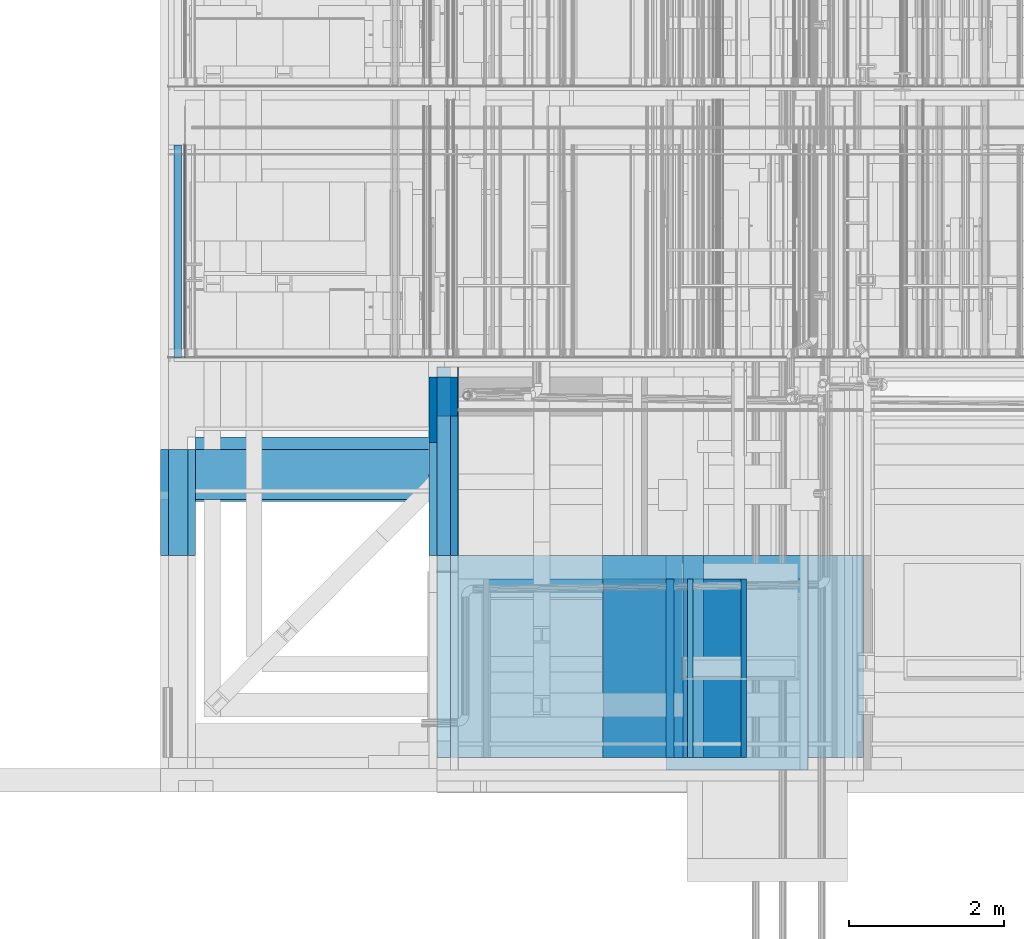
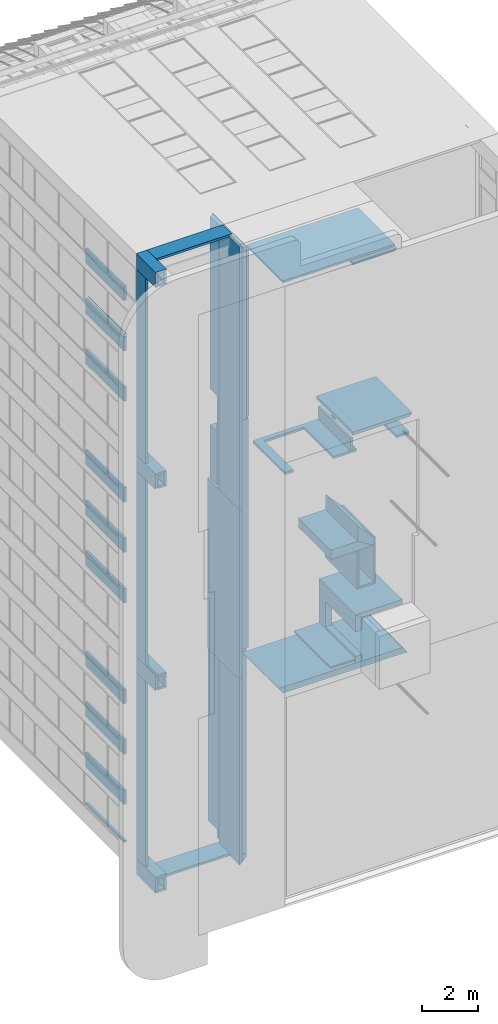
# One storey, part 9 of 583: 53 walls, 3 openings.
"""IFC2X3 building model written with IfcOpenShell, lengths in metres."""

import ifcopenshell
import ifcopenshell.guid

model = None  # the IFC model being written
_history = None  # IfcOwnerHistory: only IFC2X3 demands one
_inside = {}  # id of a spatial element -> (the spatial element, [elements in it])
_under = {}  # id of a project, library or spatial element -> (it, [spatial elements below it])
_declared = {}  # id of a project -> (the project, [libraries it declares])
_typed = {}  # id of a type object -> (the type object, [elements of that type])
_made_of = {}  # id of a material, layer set ... -> (it, [elements and type objects made of it])


def new_model(schema):
    """Start an empty IFC model of exactly this schema.

    Asked for "IFC4X3", IfcOpenShell would pick the latest addendum, in which some entities
    have other attributes; the version numbers below select the first issue.
    IFC2X3 requires an IfcOwnerHistory on every rooted entity: one is made here for all.
    """
    global model, _history
    if schema == "IFC4X3":
        model = ifcopenshell.file(schema_version=(4, 3, 0, 0))
    else:
        model = ifcopenshell.file(schema=schema)
    _inside.clear()
    _under.clear()
    _declared.clear()
    _typed.clear()
    _made_of.clear()
    _history = None
    if model.schema == "IFC2X3":
        org = make("IfcOrganization", Name="unknown")
        user = make(
            "IfcPersonAndOrganization",
            ThePerson=make("IfcPerson", FamilyName="unknown"),
            TheOrganization=org,
        )
        app = make(
            "IfcApplication",
            ApplicationDeveloper=org,
            Version="unknown",
            ApplicationFullName="unknown",
            ApplicationIdentifier="unknown",
        )
        _history = make(
            "IfcOwnerHistory",
            OwningUser=user,
            OwningApplication=app,
            ChangeAction="ADDED",
            CreationDate=0,
        )
    return model


def make(cls, **values):
    """One entity of the class cls with the attributes given. An attribute that is None is left unset."""
    return model.create_entity(
        cls, **{name: value for name, value in values.items() if value is not None}
    )


def entity(cls, *values):
    """Any entity or typed value of the class cls, its attributes in the order of the schema. None: left unset."""
    e = model.create_entity(cls)
    for i, value in enumerate(values):
        if value is not None:
            e[i] = value
    return e


def rooted(cls, **values):
    """An entity with a GlobalId (a new one), such as an element, a storey or a relation."""
    return make(cls, GlobalId=ifcopenshell.guid.new(), OwnerHistory=_history, **values)


def si_unit(unit_type, name, prefix=None):
    """IfcSIUnit, for example si_unit("LENGTHUNIT", "METRE", prefix="MILLI")."""
    return make("IfcSIUnit", UnitType=unit_type, Prefix=prefix, Name=name)


def converted_unit(unit_type, name, factor, base, dimensions=None, offset=None):
    """IfcConversionBasedUnit, such as the inch: factor (a typed value) times the base unit."""
    return make(
        "IfcConversionBasedUnit"
        if offset is None
        else "IfcConversionBasedUnitWithOffset",
        ConversionOffset=offset,
        Dimensions=None
        if dimensions is None
        else entity("IfcDimensionalExponents", *dimensions),
        UnitType=unit_type,
        Name=name,
        ConversionFactor=make(
            "IfcMeasureWithUnit", ValueComponent=factor, UnitComponent=base
        ),
    )


def derived_unit(unit_type, elements):
    """IfcDerivedUnit: a product of units, each with its exponent."""
    return make(
        "IfcDerivedUnit",
        Elements=[
            make("IfcDerivedUnitElement", Unit=unit, Exponent=power)
            for unit, power in elements
        ],
        UnitType=unit_type,
    )


def money_unit(currency):
    """IfcMonetaryUnit."""
    return make("IfcMonetaryUnit", Currency=currency)


def assignment(units):
    """IfcUnitAssignment: the units of a project."""
    return None if units is None else make("IfcUnitAssignment", Units=units)


def point(xyz):
    """IfcCartesianPoint."""
    return None if xyz is None else make("IfcCartesianPoint", Coordinates=xyz)


def direction(xyz):
    """IfcDirection."""
    return None if xyz is None else make("IfcDirection", DirectionRatios=xyz)


def frame(location, z_axis=None, x_axis=None):
    """IfcAxis2Placement3D, a coordinate frame: its origin and axes. An axis left out is left unset."""
    return make(
        "IfcAxis2Placement3D",
        Location=point(location),
        Axis=direction(z_axis),
        RefDirection=direction(x_axis),
    )


def frame_2d(location, x_axis=None):
    """IfcAxis2Placement2D, a coordinate frame in the plane: its origin and x axis."""
    return make(
        "IfcAxis2Placement2D", Location=point(location), RefDirection=direction(x_axis)
    )


def origin_with_axes():
    """The frame at (0, 0, 0) with the z axis (0, 0, 1) and the x axis (1, 0, 0) written out."""
    return frame((0.0, 0.0, 0.0), z_axis=(0.0, 0.0, 1.0), x_axis=(1.0, 0.0, 0.0))


def place(relative_to, where):
    """IfcLocalPlacement: puts the frame where relative to a parent placement (None: the world)."""
    return make(
        "IfcLocalPlacement", PlacementRelTo=relative_to, RelativePlacement=where
    )


def context(
    kind, dimensions, precision=None, world=None, true_north=None, identifier=None
):
    """IfcGeometricRepresentationContext, for example the 3D "Model" context."""
    return make(
        "IfcGeometricRepresentationContext",
        ContextIdentifier=identifier,
        ContextType=kind,
        CoordinateSpaceDimension=dimensions,
        Precision=precision,
        WorldCoordinateSystem=world,
        TrueNorth=true_north,
    )


def subcontext(parent, identifier, kind, view, scale=None):
    """IfcGeometricRepresentationSubContext, for example "Body" below "Model"."""
    return make(
        "IfcGeometricRepresentationSubContext",
        ContextIdentifier=identifier,
        ContextType=kind,
        ParentContext=parent,
        TargetScale=scale,
        TargetView=view,
    )


def project(units=None, contexts=None):
    """IfcProject with its units and contexts."""
    return rooted(
        "IfcProject",
        Name="project",
        RepresentationContexts=contexts,
        UnitsInContext=assignment(units),
    )


def spatial(cls, under=None, at=None, **own):
    """A site, building, storey or space (cls), placed at a placement, below another one or the project."""
    s = rooted(cls, ObjectPlacement=at, **own)
    if under is not None:
        _under.setdefault(under.id(), (under, []))[1].append(s)
    return s


def polyline(points):
    """IfcPolyline through the points."""
    return make("IfcPolyline", Points=[point(p) for p in points])


def profile(cls, at=None, kind="AREA", **sizes):
    """A parametric profile (cls). Its sizes go by their IFC names, for example OverallWidth=200.0."""
    return make(cls, ProfileType=kind, Position=at, **sizes)


def rectangle(**sizes):
    """IfcRectangleProfileDef."""
    return profile("IfcRectangleProfileDef", **sizes)


def outline(outer, holes=None, kind="AREA"):
    """IfcArbitraryClosedProfileDef: a profile drawn as a closed curve; with holes, ...WithVoids."""
    if holes is None:
        return make("IfcArbitraryClosedProfileDef", ProfileType=kind, OuterCurve=outer)
    return make(
        "IfcArbitraryProfileDefWithVoids",
        ProfileType=kind,
        OuterCurve=outer,
        InnerCurves=holes,
    )


def extrude(swept, where, along, depth):
    """IfcExtrudedAreaSolid: the profile swept, set in the frame where, extruded along a direction by depth."""
    return make(
        "IfcExtrudedAreaSolid",
        SweptArea=swept,
        Position=where,
        ExtrudedDirection=direction(along),
        Depth=depth,
    )


def shape(context_of_items, identifier, shape_type, items):
    """IfcShapeRepresentation: the items that make up one representation, for example the "Body"."""
    return make(
        "IfcShapeRepresentation",
        ContextOfItems=context_of_items,
        RepresentationIdentifier=identifier,
        RepresentationType=shape_type,
        Items=items,
    )


def material(Name=None, Category=None):
    """IfcMaterial."""
    return make("IfcMaterial", Name=Name, Category=Category)


def made_of(thing, what):
    """Note that an element or type object is made of a material, layer set ...; save() writes the relation."""
    if what is not None:
        _made_of.setdefault(what.id(), (what, []))[1].append(thing)
    return thing


def type_object(cls, material=None, **own):
    """A type object (cls), such as IfcWallType, which elements share."""
    return made_of(rooted(cls, **own), material)


def element(
    cls,
    number,
    at=None,
    inside=None,
    cuts=None,
    type_object=None,
    material=None,
    context=None,
    identifier="Body",
    shape_type=None,
    held_by="IfcProductDefinitionShape",
    body=None,
    shapes=None,
    **own,
):
    """One element of the class cls, such as IfcWall. Its Tag is "e" and its number.

    at: its placement. inside: the storey or other place that contains it. cuts: it is an
    opening in that element (IfcRelVoidsElement). A single representation is given by context,
    identifier, shape_type and body (its items); several are given by shapes. held_by: the class
    of the entity that holds the representations. save() writes the other relations.
    """
    e = rooted(cls, Tag="e%d" % number, ObjectPlacement=at, **own)
    if body is not None:
        shapes = [shape(context, identifier, shape_type, body)]
    if shapes is not None:
        e.Representation = make(held_by, Representations=shapes)
    if inside is not None:
        _inside.setdefault(inside.id(), (inside, []))[1].append(e)
    if cuts is not None:
        rooted(
            "IfcRelVoidsElement", RelatingBuildingElement=cuts, RelatedOpeningElement=e
        )
    if type_object is not None:
        _typed.setdefault(type_object.id(), (type_object, []))[1].append(e)
    return made_of(e, material)


def aggregate(whole, parts):
    """IfcRelAggregates: a whole, such as a stair, and the parts it consists of."""
    return rooted("IfcRelAggregates", RelatingObject=whole, RelatedObjects=parts)


def save(model, path):
    """Write the relations noted so far, then the file.

    IfcRelAggregates (storeys below a building ...), IfcRelContainedInSpatialStructure (elements
    in a storey), IfcRelDefinesByType, IfcRelAssociatesMaterial and IfcRelDeclares: one each for
    every whole, place, type object, material and project.
    """
    for whole, parts in _under.values():
        aggregate(whole, parts)
    for where, things in _inside.values():
        rooted(
            "IfcRelContainedInSpatialStructure",
            RelatedElements=things,
            RelatingStructure=where,
        )
    for kind, things in _typed.values():
        rooted("IfcRelDefinesByType", RelatedObjects=things, RelatingType=kind)
    for what, things in _made_of.values():
        rooted("IfcRelAssociatesMaterial", RelatedObjects=things, RelatingMaterial=what)
    for by, libraries in _declared.values():
        rooted("IfcRelDeclares", RelatingContext=by, RelatedDefinitions=libraries)
    model.write(path)


model = new_model("IFC2X3")

# Units and contexts
model_context = context("Model", 3, precision=1e-05, world=origin_with_axes(), true_north=direction((0.0, 1.0)))
body_context = subcontext(model_context, "Body", "Model", "MODEL_VIEW", scale=1.0)
ifc_project = project(units=[si_unit("LENGTHUNIT", "METRE"), si_unit("AREAUNIT", "SQUARE_METRE"), si_unit("VOLUMEUNIT", "CUBIC_METRE"), si_unit("ABSORBEDDOSEUNIT", "GRAY"), si_unit("AMOUNTOFSUBSTANCEUNIT", "MOLE"), si_unit("DOSEEQUIVALENTUNIT", "SIEVERT"), si_unit("ELECTRICCAPACITANCEUNIT", "FARAD"), si_unit("ELECTRICCHARGEUNIT", "COULOMB"), si_unit("ELECTRICCONDUCTANCEUNIT", "SIEMENS"), si_unit("ELECTRICCURRENTUNIT", "AMPERE"), si_unit("ELECTRICRESISTANCEUNIT", "OHM"), si_unit("ELECTRICVOLTAGEUNIT", "VOLT"), si_unit("ENERGYUNIT", "JOULE"), si_unit("FORCEUNIT", "NEWTON"), si_unit("FREQUENCYUNIT", "HERTZ"), si_unit("ILLUMINANCEUNIT", "LUX"), si_unit("INDUCTANCEUNIT", "HENRY"), si_unit("LUMINOUSFLUXUNIT", "LUMEN"), si_unit("LUMINOUSINTENSITYUNIT", "CANDELA"), si_unit("MAGNETICFLUXDENSITYUNIT", "TESLA"), si_unit("MAGNETICFLUXUNIT", "WEBER"), si_unit("MASSUNIT", "GRAM"), converted_unit("PLANEANGLEUNIT", "degree", entity("IfcReal", 0.0174532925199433), si_unit("PLANEANGLEUNIT", "RADIAN"), dimensions=[0, 0, 0, 0, 0, 0, 0]), si_unit("POWERUNIT", "WATT"), si_unit("PRESSUREUNIT", "PASCAL"), si_unit("RADIOACTIVITYUNIT", "BECQUEREL"), si_unit("SOLIDANGLEUNIT", "STERADIAN"), si_unit("THERMODYNAMICTEMPERATUREUNIT", "KELVIN"), si_unit("TIMEUNIT", "SECOND"), derived_unit("ACCELERATIONUNIT", [(si_unit("LENGTHUNIT", "METRE"), 1), (si_unit("TIMEUNIT", "SECOND"), -2)]), derived_unit("ANGULARVELOCITYUNIT", [(converted_unit("PLANEANGLEUNIT", "degree", entity("IfcReal", 0.0174532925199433), si_unit("PLANEANGLEUNIT", "RADIAN"), dimensions=[0, 0, 0, 0, 0, 0, 0]), 1), (si_unit("TIMEUNIT", "SECOND"), -1)]), derived_unit("CURVATUREUNIT", [(converted_unit("PLANEANGLEUNIT", "degree", entity("IfcReal", 0.0174532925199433), si_unit("PLANEANGLEUNIT", "RADIAN"), dimensions=[0, 0, 0, 0, 0, 0, 0]), 1), (si_unit("LENGTHUNIT", "METRE"), -1)]), derived_unit("DYNAMICVISCOSITYUNIT", [(si_unit("PRESSUREUNIT", "PASCAL"), 1), (si_unit("TIMEUNIT", "SECOND"), 1)]), derived_unit("HEATFLUXDENSITYUNIT", [(si_unit("POWERUNIT", "WATT"), 1), (si_unit("LENGTHUNIT", "METRE"), -2)]), derived_unit("HEATINGVALUEUNIT", [(si_unit("ENERGYUNIT", "JOULE"), 1), (si_unit("MASSUNIT", "GRAM"), -1)]), derived_unit("INTEGERCOUNTRATEUNIT", [(si_unit("TIMEUNIT", "SECOND"), -1)]), derived_unit("IONCONCENTRATIONUNIT", [(si_unit("MASSUNIT", "GRAM"), 1), (si_unit("VOLUMEUNIT", "CUBIC_METRE"), -1)]), derived_unit("ISOTHERMALMOISTURECAPACITYUNIT", [(si_unit("VOLUMEUNIT", "CUBIC_METRE"), 1), (si_unit("MASSUNIT", "GRAM"), -1)]), derived_unit("KINEMATICVISCOSITYUNIT", [(si_unit("AREAUNIT", "SQUARE_METRE"), 1), (si_unit("TIMEUNIT", "SECOND"), -1)]), derived_unit("LINEARFORCEUNIT", [(si_unit("FORCEUNIT", "NEWTON"), 1), (si_unit("LENGTHUNIT", "METRE"), -1)]), derived_unit("LINEARMOMENTUNIT", [(si_unit("FORCEUNIT", "NEWTON"), 1), (si_unit("LENGTHUNIT", "METRE"), -1)]), derived_unit("LINEARSTIFFNESSUNIT", [(si_unit("FORCEUNIT", "NEWTON"), 1), (si_unit("LENGTHUNIT", "METRE"), -1)]), derived_unit("LINEARVELOCITYUNIT", [(si_unit("LENGTHUNIT", "METRE"), 1), (si_unit("TIMEUNIT", "SECOND"), -1)]), derived_unit("LUMINOUSINTENSITYDISTRIBUTIONUNIT", [(si_unit("LUMINOUSINTENSITYUNIT", "CANDELA"), 1), (si_unit("LUMINOUSFLUXUNIT", "LUMEN"), -1)]), derived_unit("MASSDENSITYUNIT", [(si_unit("MASSUNIT", "GRAM"), 1), (si_unit("VOLUMEUNIT", "CUBIC_METRE"), -1)]), derived_unit("MASSFLOWRATEUNIT", [(si_unit("MASSUNIT", "GRAM"), 1), (si_unit("TIMEUNIT", "SECOND"), -1)]), derived_unit("MASSPERLENGTHUNIT", [(si_unit("MASSUNIT", "GRAM"), 1), (si_unit("LENGTHUNIT", "METRE"), -1)]), derived_unit("MODULUSOFELASTICITYUNIT", [(si_unit("FORCEUNIT", "NEWTON"), 1), (si_unit("AREAUNIT", "SQUARE_METRE"), -1)]), derived_unit("MODULUSOFLINEARSUBGRADEREACTIONUNIT", [(si_unit("FORCEUNIT", "NEWTON"), 1), (si_unit("LENGTHUNIT", "METRE"), -2)]), derived_unit("MODULUSOFROTATIONALSUBGRADEREACTIONUNIT", [(si_unit("FORCEUNIT", "NEWTON"), 1), (si_unit("LENGTHUNIT", "METRE"), 1)]), derived_unit("MODULUSOFSUBGRADEREACTIONUNIT", [(si_unit("FORCEUNIT", "NEWTON"), 1), (si_unit("VOLUMEUNIT", "CUBIC_METRE"), -1)]), derived_unit("MOISTUREDIFFUSIVITYUNIT", [(si_unit("VOLUMEUNIT", "CUBIC_METRE"), 1), (si_unit("TIMEUNIT", "SECOND"), -1)]), derived_unit("MOLECULARWEIGHTUNIT", [(si_unit("MASSUNIT", "GRAM"), 1), (si_unit("AMOUNTOFSUBSTANCEUNIT", "MOLE"), -1)]), derived_unit("PLANARFORCEUNIT", [(si_unit("FORCEUNIT", "NEWTON"), 1), (si_unit("LENGTHUNIT", "METRE"), -2)]), derived_unit("ROTATIONALFREQUENCYUNIT", [(si_unit("TIMEUNIT", "SECOND"), -1)]), derived_unit("ROTATIONALMASSUNIT", [(si_unit("MASSUNIT", "GRAM"), 1), (si_unit("LENGTHUNIT", "METRE"), 2)]), derived_unit("ROTATIONALSTIFFNESSUNIT", [(si_unit("FORCEUNIT", "NEWTON"), 1), (si_unit("LENGTHUNIT", "METRE"), 1), (converted_unit("PLANEANGLEUNIT", "degree", entity("IfcReal", 0.0174532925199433), si_unit("PLANEANGLEUNIT", "RADIAN"), dimensions=[0, 0, 0, 0, 0, 0, 0]), -1)]), derived_unit("SECTIONAREAINTEGRALUNIT", [(si_unit("LENGTHUNIT", "METRE"), 5)]), derived_unit("SECTIONMODULUSUNIT", [(si_unit("LENGTHUNIT", "METRE"), 3)]), derived_unit("SHEARMODULUSUNIT", [(si_unit("FORCEUNIT", "NEWTON"), 1), (si_unit("AREAUNIT", "SQUARE_METRE"), -1)]), derived_unit("SOUNDPOWERUNIT", [(si_unit("ENERGYUNIT", "JOULE"), 1), (si_unit("TIMEUNIT", "SECOND"), -1)]), derived_unit("SPECIFICHEATCAPACITYUNIT", [(si_unit("FORCEUNIT", "NEWTON"), 1), (si_unit("MASSUNIT", "GRAM"), -1), (si_unit("THERMODYNAMICTEMPERATUREUNIT", "KELVIN"), -1)]), derived_unit("TEMPERATUREGRADIENTUNIT", [(si_unit("THERMODYNAMICTEMPERATUREUNIT", "KELVIN"), 1), (si_unit("LENGTHUNIT", "METRE"), -1)]), derived_unit("THERMALADMITTANCEUNIT", [(si_unit("POWERUNIT", "WATT"), 1), (si_unit("AREAUNIT", "SQUARE_METRE"), -1), (si_unit("THERMODYNAMICTEMPERATUREUNIT", "KELVIN"), -1)]), derived_unit("THERMALCONDUCTANCEUNIT", [(si_unit("POWERUNIT", "WATT"), 1), (si_unit("LENGTHUNIT", "METRE"), -1), (si_unit("THERMODYNAMICTEMPERATUREUNIT", "KELVIN"), -1)]), derived_unit("THERMALEXPANSIONCOEFFICIENTUNIT", [(si_unit("THERMODYNAMICTEMPERATUREUNIT", "KELVIN"), -1)]), derived_unit("THERMALRESISTANCEUNIT", [(si_unit("AREAUNIT", "SQUARE_METRE"), 1), (si_unit("POWERUNIT", "WATT"), -1)]), derived_unit("THERMALTRANSMITTANCEUNIT", [(si_unit("POWERUNIT", "WATT"), 1), (si_unit("AREAUNIT", "SQUARE_METRE"), -1), (si_unit("THERMODYNAMICTEMPERATUREUNIT", "KELVIN"), -1)]), derived_unit("TORQUEUNIT", [(si_unit("FORCEUNIT", "NEWTON"), 1), (si_unit("LENGTHUNIT", "METRE"), 1)]), derived_unit("VAPORPERMEABILITYUNIT", [(si_unit("MASSUNIT", "GRAM"), 1), (si_unit("TIMEUNIT", "SECOND"), -1)]), derived_unit("VOLUMETRICFLOWRATEUNIT", [(si_unit("VOLUMEUNIT", "CUBIC_METRE"), 1), (si_unit("TIMEUNIT", "SECOND"), -1)]), derived_unit("WARPINGCONSTANTUNIT", [(si_unit("LENGTHUNIT", "METRE"), 6)]), derived_unit("WARPINGMOMENTUNIT", [(si_unit("FORCEUNIT", "NEWTON"), 1), (si_unit("LENGTHUNIT", "METRE"), 2)]), money_unit("GBP")], contexts=[model_context])

# Site, building, storey
site_placement = place(None, origin_with_axes())
site = spatial("IfcSite", under=ifc_project, at=site_placement, Name="Site", CompositionType="ELEMENT")
building_placement = place(site_placement, origin_with_axes())
building = spatial("IfcBuilding", under=site, at=building_placement, Name="Building01", CompositionType="ELEMENT")
storey_placement = place(building_placement, frame((0.0, 0.0, 20.78), z_axis=(0.0, 0.0, 1.0), x_axis=(1.0, 0.0, 0.0)))
storey = spatial("IfcBuildingStorey", under=building, at=storey_placement, Name="RL", CompositionType="ELEMENT", Elevation=20.78)

# Walls
ifc_material_1 = material(Name="A_BSUK_WallsExternal_Brick")
wall_type_1 = type_object("IfcWallType", Name="A-Walls-ExternalBrick", PredefinedType="NOTDEFINED")
wall_1_placement = place(storey_placement, frame((0.0, 2.6, -20.08), z_axis=(0.0, 1.0, 0.0), x_axis=(1.0, 0.0, 0.0)))
element("IfcWall", 1, at=wall_1_placement, inside=storey, type_object=wall_type_1, material=ifc_material_1, Name="A-Walls-ExternalBrick", ObjectType="A-Walls-ExternalBrick", context=body_context, shape_type="SweptSolid", body=[
    extrude(outline(polyline([(0.349667, 0.1), (0.1, 0.1), (0.0, 0.0), (0.449667, 0.0), (0.349667, 0.1)])), origin_with_axes(), (0.0, 0.0, 1.0), 1.37),
])
wall_2_placement = place(storey_placement, frame((0.449667, 2.6, -20.08), z_axis=(0.0, 1.0, 0.0), x_axis=(0.0, 0.0, -1.0)))
element("IfcWall", 2, at=wall_2_placement, inside=storey, type_object=wall_type_1, material=ifc_material_1, Name="A-Walls-ExternalBrick", ObjectType="A-Walls-ExternalBrick", context=body_context, shape_type="SweptSolid", body=[
    extrude(outline(polyline([(0.599983, 0.1), (0.1, 0.1), (0.0, 0.0), (0.699983, 0.0), (0.599983, 0.1)])), origin_with_axes(), (0.0, 0.0, 1.0), 1.37),
])
wall_3_placement = place(storey_placement, frame((0.449667, 2.6, -20.779983), z_axis=(0.0, 1.0, 0.0), x_axis=(-1.0, 0.0, 0.0)))
element("IfcWall", 3, at=wall_3_placement, inside=storey, type_object=wall_type_1, material=ifc_material_1, Name="A-Walls-ExternalBrick", ObjectType="A-Walls-ExternalBrick", context=body_context, shape_type="SweptSolid", body=[
    extrude(outline(polyline([(0.349667, 0.1), (0.1, 0.1), (0.0, 0.0), (0.449667, 0.0), (0.349667, 0.1)])), origin_with_axes(), (0.0, 0.0, 1.0), 1.37),
])
wall_4_placement = place(storey_placement, frame((-0.000329, 2.6, -11.99), z_axis=(0.0, 1.0, 0.0), x_axis=(0.0, 0.0, 1.0)))
element("IfcWall", 4, at=wall_4_placement, inside=storey, type_object=wall_type_1, material=ifc_material_1, Name="A-Walls-ExternalBrick", ObjectType="A-Walls-ExternalBrick", context=body_context, shape_type="SweptSolid", body=[
    extrude(outline(polyline([(0.57, 0.1), (0.1, 0.1), (0.0, 0.0), (0.67, 0.0), (0.57, 0.1)])), origin_with_axes(), (0.0, 0.0, 1.0), 1.37),
])
wall_5_placement = place(storey_placement, frame((0.1, 2.6, -11.32), z_axis=(0.0, 1.0, 0.0), x_axis=(1.0, 0.0, 0.0)))
element("IfcWall", 5, at=wall_5_placement, inside=storey, type_object=wall_type_1, material=ifc_material_1, Name="A-Walls-ExternalBrick", ObjectType="A-Walls-ExternalBrick", context=body_context, shape_type="SweptSolid", body=[
    extrude(outline(polyline([(0.249338, 0.1), (0.0, 0.1), (0.0, 0.0), (0.349338, 0.0), (0.249338, 0.1)])), origin_with_axes(), (0.0, 0.0, 1.0), 1.37),
])
wall_6_placement = place(storey_placement, frame((0.449338, 2.6, -11.32), z_axis=(0.0, 1.0, 0.0), x_axis=(0.0, 0.0, -1.0)))
element("IfcWall", 6, at=wall_6_placement, inside=storey, type_object=wall_type_1, material=ifc_material_1, Name="A-Walls-ExternalBrick", ObjectType="A-Walls-ExternalBrick", context=body_context, shape_type="SweptSolid", body=[
    extrude(outline(polyline([(0.57, 0.1), (0.1, 0.1), (0.0, 0.0), (0.67, 0.0), (0.57, 0.1)])), origin_with_axes(), (0.0, 0.0, 1.0), 1.37),
])
wall_7_placement = place(storey_placement, frame((0.449338, 2.6, -11.99), z_axis=(0.0, 1.0, 0.0), x_axis=(-1.0, 0.0, 0.0)))
element("IfcWall", 7, at=wall_7_placement, inside=storey, type_object=wall_type_1, material=ifc_material_1, Name="A-Walls-ExternalBrick", ObjectType="A-Walls-ExternalBrick", context=body_context, shape_type="SweptSolid", body=[
    extrude(outline(polyline([(0.349338, 0.1), (0.1, 0.1), (0.0, 0.0), (0.349338, 0.0), (0.349338, 0.1)])), origin_with_axes(), (0.0, 0.0, 1.0), 1.37),
])
wall_8_placement = place(storey_placement, frame((-0.000988, 2.6, 5.53), z_axis=(0.0, 1.0, 0.0), x_axis=(0.0, 0.0, 1.0)))
element("IfcWall", 8, at=wall_8_placement, inside=storey, type_object=wall_type_1, material=ifc_material_1, Name="A-Walls-ExternalBrick", ObjectType="A-Walls-ExternalBrick", context=body_context, shape_type="SweptSolid", body=[
    extrude(outline(polyline([(0.571155, 0.1), (0.1, 0.1), (0.0, 0.0), (0.671155, 0.0), (0.571155, 0.1)])), origin_with_axes(), (0.0, 0.0, 1.0), 1.37),
])
wall_9_placement = place(storey_placement, frame((-0.000988, 2.6, 6.201155), z_axis=(0.0, 1.0, 0.0), x_axis=(1.0, 0.0, 0.0)))
element("IfcWall", 9, at=wall_9_placement, inside=storey, type_object=wall_type_1, material=ifc_material_1, Name="A-Walls-ExternalBrick", ObjectType="A-Walls-ExternalBrick", context=body_context, shape_type="SweptSolid", body=[
    extrude(outline(polyline([(0.349667, 0.1), (0.1, 0.1), (0.0, 0.0), (0.449667, 0.0), (0.349667, 0.1)])), origin_with_axes(), (0.0, 0.0, 1.0), 1.37),
])
wall_10_placement = place(storey_placement, frame((0.448679, 2.6, 6.201155), z_axis=(0.0, 1.0, 0.0), x_axis=(0.0, 0.0, -1.0)))
element("IfcWall", 10, at=wall_10_placement, inside=storey, type_object=wall_type_1, material=ifc_material_1, Name="A-Walls-ExternalBrick", ObjectType="A-Walls-ExternalBrick", context=body_context, shape_type="SweptSolid", body=[
    extrude(outline(polyline([(0.571155, 0.1), (0.1, 0.1), (0.0, 0.0), (0.671155, 0.0), (0.571155, 0.1)])), origin_with_axes(), (0.0, 0.0, 1.0), 1.37),
])
wall_11_placement = place(storey_placement, frame((0.448679, 2.6, 5.53), z_axis=(0.0, 1.0, 0.0), x_axis=(-1.0, 0.0, 0.0)))
element("IfcWall", 11, at=wall_11_placement, inside=storey, type_object=wall_type_1, material=ifc_material_1, Name="A-Walls-ExternalBrick", ObjectType="A-Walls-ExternalBrick", context=body_context, shape_type="SweptSolid", body=[
    extrude(outline(polyline([(0.349667, 0.1), (0.1, 0.1), (0.0, 0.0), (0.449667, 0.0), (0.349667, 0.1)])), origin_with_axes(), (0.0, 0.0, 1.0), 1.37),
])
wall_12_placement = place(storey_placement, frame((0.0, 3.325, -20.08), z_axis=(0.0, 1.0, 0.0), x_axis=(0.0, 0.0, 1.0)))
element("IfcWall", 12, at=wall_12_placement, inside=storey, type_object=wall_type_1, material=ifc_material_1, Name="A-Walls-ExternalBrick", ObjectType="A-Walls-ExternalBrick", context=body_context, shape_type="SweptSolid", body=[
    extrude(rectangle(XDim=25.61, YDim=0.1, at=frame_2d((12.805, 0.05), x_axis=(-1.0, 0.0))), origin_with_axes(), (0.0, 0.0, 1.0), 0.645),
])
wall_13_placement = place(storey_placement, frame((3.459332, 3.325, 6.101639), z_axis=(0.0, 1.0, 0.0), x_axis=(-1.0, 0.0, 0.0)))
element("IfcWall", 13, at=wall_13_placement, inside=storey, type_object=wall_type_1, material=ifc_material_1, Name="A-Walls-ExternalBrick", ObjectType="A-Walls-ExternalBrick", context=body_context, shape_type="SweptSolid", body=[
    extrude(outline(polyline([(-0.1, 0.1), (0.0, 0.0), (3.010653, 0.0), (3.010653, 0.1), (-0.1, 0.1)])), origin_with_axes(), (0.0, 0.0, 1.0), 0.645),
])
wall_14_placement = place(storey_placement, frame((3.459332, 3.298, -20.779321), z_axis=(0.0, 1.0, 0.0), x_axis=(-1.0, 0.0, 0.0)))
element("IfcWall", 14, at=wall_14_placement, inside=storey, type_object=wall_type_1, material=ifc_material_1, Name="A-Walls-ExternalBrick", ObjectType="A-Walls-ExternalBrick", context=body_context, shape_type="SweptSolid", body=[
    extrude(rectangle(XDim=3.009665, YDim=0.1, at=frame_2d((1.504833, 0.05), x_axis=(-1.0, 0.0))), origin_with_axes(), (0.0, 0.0, 1.0), 0.832),
])
wall_15_placement = place(storey_placement, frame((3.459332, 2.6, -20.779321), z_axis=(0.0, 1.0, 0.0), x_axis=(0.0, 0.0, 1.0)))
element("IfcWall", 15, at=wall_15_placement, inside=storey, type_object=wall_type_1, material=ifc_material_1, Name="A-Walls-ExternalBrick", ObjectType="A-Walls-ExternalBrick", context=body_context, shape_type="SweptSolid", body=[
    extrude(outline(polyline([(8.053415, 0.1), (0.1, 0.1), (0.0, 0.0), (8.053415, 0.0), (8.053415, 0.1)])), origin_with_axes(), (0.0, 0.0, 1.0), 1.46),
])
wall_16_placement = place(storey_placement, frame((3.459332, 2.6, -12.725906), z_axis=(0.0, 1.0, 0.0), x_axis=(0.0, 0.0, 1.0)))
element("IfcWall", 16, at=wall_16_placement, inside=storey, type_object=wall_type_1, material=ifc_material_1, Name="A-Walls-ExternalBrick", ObjectType="A-Walls-ExternalBrick", context=body_context, shape_type="SweptSolid", body=[
    extrude(rectangle(XDim=7.384767, YDim=0.1, at=frame_2d((3.692383, 0.05), x_axis=(-1.0, 0.0))), origin_with_axes(), (0.0, 0.0, 1.0), 2.3),
])
wall_17_placement = place(storey_placement, frame((3.459332, 2.6, 6.101285), z_axis=(0.0, 1.0, 0.0), x_axis=(0.0, 0.0, -1.0)))
element("IfcWall", 17, at=wall_17_placement, inside=storey, type_object=wall_type_1, material=ifc_material_1, Name="A-Walls-ExternalBrick", ObjectType="A-Walls-ExternalBrick", context=body_context, shape_type="SweptSolid", body=[
    extrude(rectangle(XDim=11.442424, YDim=0.1, at=frame_2d((5.721212, -0.05), x_axis=(-1.0, 0.0))), origin_with_axes(), (0.0, 0.0, 1.0), 1.46),
])
wall_18_placement = place(storey_placement, frame((0.0, 2.6, -20.779983), z_axis=(0.0, 1.0, 0.0), x_axis=(0.0, 0.0, 1.0)))
element("IfcWall", 18, at=wall_18_placement, inside=storey, type_object=wall_type_1, material=ifc_material_1, Name="A-Walls-ExternalBrick", ObjectType="A-Walls-ExternalBrick", context=body_context, shape_type="SweptSolid", body=[
    extrude(outline(polyline([(0.599983, 0.1), (0.1, 0.1), (0.0, 0.0), (0.699983, 0.0), (0.599983, 0.1)])), origin_with_axes(), (0.0, 0.0, 1.0), 1.37),
])
wall_19_placement = place(storey_placement, frame((-0.000329, 2.6, -2.56), z_axis=(0.0, 1.0, 0.0), x_axis=(1.0, 0.0, 0.0)))
element("IfcWall", 19, at=wall_19_placement, inside=storey, type_object=wall_type_1, material=ifc_material_1, Name="A-Walls-ExternalBrick", ObjectType="A-Walls-ExternalBrick", context=body_context, shape_type="SweptSolid", body=[
    extrude(outline(polyline([(0.349667, 0.1), (0.1, 0.1), (0.0, 0.0), (0.449667, 0.0), (0.349667, 0.1)])), origin_with_axes(), (0.0, 0.0, 1.0), 1.37),
])
wall_20_placement = place(storey_placement, frame((-0.000329, 2.6, -3.23), z_axis=(0.0, 1.0, 0.0), x_axis=(0.0, 0.0, 1.0)))
element("IfcWall", 20, at=wall_20_placement, inside=storey, type_object=wall_type_1, material=ifc_material_1, Name="A-Walls-ExternalBrick", ObjectType="A-Walls-ExternalBrick", context=body_context, shape_type="SweptSolid", body=[
    extrude(outline(polyline([(0.57, 0.1), (0.1, 0.1), (0.0, 0.0), (0.67, 0.0), (0.57, 0.1)])), origin_with_axes(), (0.0, 0.0, 1.0), 1.37),
])
wall_21_placement = place(storey_placement, frame((0.449338, 2.6, -3.23), z_axis=(0.0, 1.0, 0.0), x_axis=(-1.0, 0.0, 0.0)))
element("IfcWall", 21, at=wall_21_placement, inside=storey, type_object=wall_type_1, material=ifc_material_1, Name="A-Walls-ExternalBrick", ObjectType="A-Walls-ExternalBrick", context=body_context, shape_type="SweptSolid", body=[
    extrude(outline(polyline([(0.349338, 0.1), (0.1, 0.1), (0.0, 0.0), (0.349338, 0.0), (0.349338, 0.1)])), origin_with_axes(), (0.0, 0.0, 1.0), 1.37),
])
wall_22_placement = place(storey_placement, frame((0.449338, 2.6, -2.56), z_axis=(0.0, 1.0, 0.0), x_axis=(0.0, 0.0, -1.0)))
element("IfcWall", 22, at=wall_22_placement, inside=storey, type_object=wall_type_1, material=ifc_material_1, Name="A-Walls-ExternalBrick", ObjectType="A-Walls-ExternalBrick", context=body_context, shape_type="SweptSolid", body=[
    extrude(outline(polyline([(0.57, 0.1), (0.1, 0.1), (0.0, 0.0), (0.67, 0.0), (0.57, 0.1)])), origin_with_axes(), (0.0, 0.0, 1.0), 1.37),
])
ifc_material_2 = material(Name="A_BSUK_WallsExternal_Block")
wall_type_2 = type_object("IfcWallType", Name="A-Walls-ExternalBlock", PredefinedType="NOTDEFINED")
wall_23_placement = place(storey_placement, frame((8.237758, -0.16, 5.915229), z_axis=(0.0, 1.0, 0.0), x_axis=(-1.0, 0.0, -3.756e-05)))
element("IfcWall", 23, at=wall_23_placement, inside=storey, type_object=wall_type_2, material=ifc_material_2, Name="A-Walls-ExternalBlock", ObjectType="A-Walls-ExternalBlock", context=body_context, shape_type="SweptSolid", body=[
    extrude(outline(polyline([(1.726014, 0.1), (-0.100004, 0.1), (0.0, 0.0), (1.726014, 0.0), (1.726014, 0.1)])), origin_with_axes(), (0.0, 0.0, 1.0), 2.76),
])
wall_24_placement = place(storey_placement, frame((3.559332, 0.0, -11.550001), z_axis=(0.0, 1.0, 0.0), x_axis=(1.0, 0.0, 0.0)))
element("IfcWall", 24, at=wall_24_placement, inside=storey, type_object=wall_type_2, material=ifc_material_2, Name="A-Walls-ExternalBlock", ObjectType="A-Walls-ExternalBlock", context=body_context, shape_type="SweptSolid", body=[
    extrude(outline(polyline([(5.312078, 0.264901), (0.174, 0.264901), (0.0, 0.0), (5.088078, 0.0), (5.312078, 0.264901)])), origin_with_axes(), (0.0, 0.0, 1.0), 2.6),
])
wall_25_placement = place(storey_placement, frame((6.725761, 0.0, -11.425901), z_axis=(0.0, 1.0, 0.0), x_axis=(-1.0, 0.0, 0.0)))
element("IfcWall", 25, at=wall_25_placement, inside=storey, type_object=wall_type_2, material=ifc_material_2, Name="A-Walls-ExternalBlock", ObjectType="A-Walls-ExternalBlock", context=body_context, shape_type="SweptSolid", body=[
    extrude(rectangle(XDim=0.065, YDim=1.032712, at=frame_2d((0.516356, 0.0325), x_axis=(0.0, -1.0))), origin_with_axes(), (0.0, 0.0, 1.0), 2.6),
])
wall_26_placement = place(storey_placement, frame((6.610938, 0.0, -1.477033), z_axis=(0.0, 1.0, 0.0), x_axis=(1.0, 0.0, 0.0)))
element("IfcWall", 26, at=wall_26_placement, inside=storey, type_object=wall_type_2, material=ifc_material_2, Name="A-Walls-ExternalBlock", ObjectType="A-Walls-ExternalBlock", context=body_context, shape_type="SweptSolid", body=[
    extrude(outline(polyline([(2.311208, 0.138), (0.0, 0.138), (0.0, 0.0), (2.442208, 0.0), (2.311208, 0.138)])), origin_with_axes(), (0.0, 0.0, 1.0), 2.6),
])
wall_27_placement = place(storey_placement, frame((3.733962, 0.0, 6.101285), z_axis=(0.0, 1.0, 0.0), x_axis=(1.0, 0.0, 0.0)))
element("IfcWall", 27, at=wall_27_placement, inside=storey, type_object=wall_type_2, material=ifc_material_2, Name="A-Walls-ExternalBlock", ObjectType="A-Walls-ExternalBlock", context=body_context, shape_type="SweptSolid", body=[
    extrude(rectangle(XDim=4.603796, YDim=0.086, at=frame_2d((2.301898, 0.043), x_axis=(1.0, 0.0))), origin_with_axes(), (0.0, 0.0, 1.0), 2.6),
])
wall_28_placement = place(storey_placement, frame((3.558962, 2.6, -1.477228), z_axis=(0.0, 1.0, 0.0), x_axis=(0.0, 0.0, 1.0)))
element("IfcWall", 28, at=wall_28_placement, inside=storey, type_object=wall_type_2, material=ifc_material_2, Name="A-Walls-ExternalBlock", ObjectType="A-Walls-ExternalBlock", context=body_context, shape_type="SweptSolid", body=[
    extrude(rectangle(XDim=7.492513, YDim=0.175, at=frame_2d((3.746257, 0.0875), x_axis=(-1.0, 0.0))), origin_with_axes(), (0.0, 0.0, 1.0), 2.3),
])
wall_29_placement = place(storey_placement, frame((3.733332, 2.6, -11.425901), z_axis=(0.0, 1.0, 0.0), x_axis=(0.0, 0.0, -1.0)))
element("IfcWall", 29, at=wall_29_placement, inside=storey, type_object=wall_type_2, material=ifc_material_2, Name="A-Walls-ExternalBlock", ObjectType="A-Walls-ExternalBlock", context=body_context, shape_type="SweptSolid", body=[
    extrude(rectangle(XDim=8.904103, YDim=0.174, at=frame_2d((4.452051, 0.087), x_axis=(-1.0, 0.0))), origin_with_axes(), (0.0, 0.0, 1.0), 2.43),
])
wall_30_placement = place(storey_placement, frame((3.558962, 2.6, -11.425901), z_axis=(0.0, 1.0, 0.0), x_axis=(0.0, 0.0, 1.0)))
element("IfcWall", 30, at=wall_30_placement, inside=storey, type_object=wall_type_2, material=ifc_material_2, Name="A-Walls-ExternalBlock", ObjectType="A-Walls-ExternalBlock", context=body_context, shape_type="SweptSolid", body=[
    extrude(rectangle(XDim=0.265, YDim=9.948672, at=frame_2d((4.974336, 0.1325), x_axis=(0.0, -1.0))), origin_with_axes(), (0.0, 0.0, 1.0), 1.8),
])
wall_31_placement = place(storey_placement, frame((3.833578, 2.6, 5.915064), z_axis=(0.0, 1.0, 0.0), x_axis=(3.756e-05, 0.0, -1.0)))
element("IfcWall", 31, at=wall_31_placement, inside=storey, type_object=wall_type_2, material=ifc_material_2, Name="A-Walls-ExternalBlock", ObjectType="A-Walls-ExternalBlock", context=body_context, shape_type="SweptSolid", body=[
    extrude(outline(polyline([(7.392288, 0.1), (-0.1, 0.1), (0.0, 0.0), (7.292288, 0.0), (7.392288, 0.1)])), origin_with_axes(), (0.0, 0.0, 1.0), 2.43),
])
wall_32_placement = place(storey_placement, frame((3.733332, 2.6, -20.330003), z_axis=(0.0, 1.0, 0.0), x_axis=(3.756e-05, 0.0, -1.0)))
element("IfcWall", 32, at=wall_32_placement, inside=storey, type_object=wall_type_2, material=ifc_material_2, Name="A-Walls-ExternalBlock", ObjectType="A-Walls-ExternalBlock", context=body_context, shape_type="SweptSolid", body=[
    extrude(outline(polyline([(0.34964, 0.173917), (-7e-06, 0.173917), (0.0, 0.0), (0.16964, 0.0), (0.34964, 0.173917)])), origin_with_axes(), (0.0, 0.0, 1.0), 1.8),
])
wall_33_placement = place(storey_placement, frame((3.558962, 4.4, -11.550001), z_axis=(0.0, 1.0, 0.0), x_axis=(0.0, 0.0, 1.0)))
element("IfcWall", 33, at=wall_33_placement, inside=storey, type_object=wall_type_2, material=ifc_material_2, Name="A-Walls-ExternalBlock", ObjectType="A-Walls-ExternalBlock", context=body_context, shape_type="SweptSolid", body=[
    extrude(outline(polyline([(0.1241, 0.265), (0.0, 0.0), (8.500001, 0.0), (8.500001, 0.265), (0.1241, 0.265)])), origin_with_axes(), (0.0, 0.0, 1.0), 0.5),
])
wall_34_placement = place(storey_placement, frame((0.27, 5.15, -20.103), z_axis=(0.0, 1.0, 0.0), x_axis=(0.0, 0.0, -1.0)))
element("IfcWall", 34, at=wall_34_placement, inside=storey, type_object=wall_type_2, material=ifc_material_2, Name="A-Walls-ExternalBlock", ObjectType="A-Walls-ExternalBlock", context=body_context, shape_type="SweptSolid", body=[
    extrude(rectangle(XDim=0.1, YDim=0.077, at=frame_2d((0.0385, 0.05), x_axis=(0.0, -1.0))), origin_with_axes(), (0.0, 0.0, 1.0), 2.74),
])
for number, where, z_axis, x_axis, name in (
    (35, (0.27, 5.15, -17.913), (0.0, 1.0, 0.0), (0.0, 0.0, -1.0), "A-Walls-ExternalBlock"),
    (36, (0.27, 5.15, -15.723), (0.0, 1.0, 0.0), (0.0, 0.0, -1.0), "A-Walls-ExternalBlock"),
    (37, (0.27, 5.15, -13.533), (0.0, 1.0, 0.0), (0.0, 0.0, -1.0), "A-Walls-ExternalBlock"),
    (38, (0.27, 5.15, -9.153), (0.0, 1.0, 0.0), (0.0, 0.0, -1.0), "A-Walls-ExternalBlock"),
    (39, (0.27, 5.15, -6.963), (0.0, 1.0, 0.0), (0.0, 0.0, -1.0), "A-Walls-ExternalBlock"),
    (40, (0.27, 5.15, -4.773), (0.0, 1.0, 0.0), (0.0, 0.0, -1.0), "A-Walls-ExternalBlock"),
    (41, (0.27, 5.15, -0.393), (0.0, 1.0, 0.0), (0.0, 0.0, -1.0), "A-Walls-ExternalBlock"),
    (42, (0.27, 5.15, 1.797), (0.0, 1.0, 0.0), (0.0, 0.0, -1.0), "A-Walls-ExternalBlock"),
    (43, (0.27, 5.15, 3.987), (0.0, 1.0, 0.0), (0.0, 0.0, -1.0), "A-Walls-ExternalBlock"),
):
    element("IfcWall", number, at=place(storey_placement, frame(where, z_axis=z_axis, x_axis=x_axis)), inside=storey, type_object=wall_type_2, material=ifc_material_2, Name=name, ObjectType="A-Walls-ExternalBlock", context=body_context, shape_type="SweptSolid", body=[
        extrude(rectangle(XDim=0.624, YDim=0.1, at=frame_2d((0.312, 0.05), x_axis=(-1.0, 0.0))), origin_with_axes(), (0.0, 0.0, 1.0), 2.74),
    ])
ifc_material_3 = material(Name="A_BSUK_WallsInternal_Block")
wall_type_3 = type_object("IfcWallType", Name="A-Walls-InternalBlock", PredefinedType="NOTDEFINED")
wall_35_placement = place(storey_placement, frame((8.64741, 0.0, -9.65), z_axis=(0.0, 1.0, 0.0), x_axis=(-1.0, 0.0, 0.0)))
element("IfcWall", 44, at=wall_35_placement, inside=storey, type_object=wall_type_3, material=ifc_material_3, Name="A-Walls-InternalBlock", ObjectType="A-Walls-InternalBlock", context=body_context, shape_type="SweptSolid", body=[
    extrude(outline(polyline([(1.921649, 0.1938), (0.0, 0.1938), (0.0, 0.0), (1.657649, 0.0), (1.921649, 0.1938)])), origin_with_axes(), (0.0, 0.0, 1.0), 2.6),
])

# Wall, opening
wall_36_placement = place(storey_placement, frame((6.989761, 0.0, -9.65), z_axis=(0.0, 1.0, 0.0), x_axis=(0.0, 0.0, -1.0)))
wall_36 = element("IfcWall", 45, at=wall_36_placement, inside=storey, type_object=wall_type_3, material=ifc_material_3, Name="A-Walls-InternalBlock", ObjectType="A-Walls-InternalBlock", context=body_context, shape_type="SweptSolid", body=[
    extrude(outline(polyline([(1.900001, 0.264), (-0.1938, 0.264), (0.0, 0.0), (1.900001, 0.0), (1.900001, 0.264)])), origin_with_axes(), (0.0, 0.0, 1.0), 2.6),
])
opening_1_placement = place(wall_36_placement, frame((0.538302, 0.0, 0.0), z_axis=(0.0, 0.0, 1.0), x_axis=(1.0, 0.0, 0.0)))
element("IfcOpeningElement", 46, at=opening_1_placement, cuts=wall_36, Name="Opening", ObjectType="Opening", context=body_context, shape_type="SweptSolid", body=[
    extrude(rectangle(XDim=2.14, YDim=1.08, at=frame_2d((-0.54, 1.07), x_axis=(0.0, -1.0))), frame((0.0, 0.0, 0.0), z_axis=(0.0, 1.0, 0.0), x_axis=(-1.0, 0.0, 0.0)), (0.0, 0.0, 1.0), 0.264),
])

# Walls
ifc_material_4 = material(Name="A_BSUK_WallsInternal")
wall_type_4 = type_object("IfcWallType", Name="A-Walls-Internal", PredefinedType="NOTDEFINED")
wall_37_placement = place(storey_placement, frame((5.701748, 0.0, -6.288849), z_axis=(0.0, 1.0, 0.0), x_axis=(1.0, 0.0, 0.0)))
element("IfcWall", 47, at=wall_37_placement, inside=storey, type_object=wall_type_4, material=ifc_material_4, Name="A-Walls-Internal", ObjectType="A-Walls-Internal", context=body_context, shape_type="SweptSolid", body=[
    extrude(outline(polyline([(1.772868, 0.405), (0.0, 0.405), (0.0, 0.0), (1.112868, 0.0), (1.772868, 0.405)])), origin_with_axes(), (0.0, 0.0, 1.0), 2.3),
])
wall_38_placement = place(storey_placement, frame((6.814616, 0.0, -6.288849), z_axis=(0.0, 1.0, 0.0), x_axis=(0.0, 0.0, 1.0)))
element("IfcWall", 48, at=wall_38_placement, inside=storey, type_object=wall_type_4, material=ifc_material_4, Name="A-Walls-Internal", ObjectType="A-Walls-Internal", context=body_context, shape_type="SweptSolid", body=[
    extrude(outline(polyline([(-0.059646, 0.66), (-0.405, 0.66), (0.0, 0.0), (0.651354, 0.0), (-0.059646, 0.66)])), origin_with_axes(), (0.0, 0.0, 1.0), 2.3),
])
wall_39_placement = place(storey_placement, frame((7.54741, 0.0, -8.3562), z_axis=(0.0, 1.0, 0.0), x_axis=(-1.0, 0.0, 0.0)))
element("IfcWall", 49, at=wall_39_placement, inside=storey, type_object=wall_type_4, material=ifc_material_4, Name="A-Walls-Internal", ObjectType="A-Walls-Internal", context=body_context, shape_type="SweptSolid", body=[
    extrude(outline(polyline([(0.687877, 0.073), (0.073, 0.073), (0.0, 0.0), (0.760877, 0.0), (0.687877, 0.073)])), origin_with_axes(), (0.0, 0.0, 1.0), 2.3),
])
wall_40_placement = place(storey_placement, frame((6.786533, 0.0, -8.3562), z_axis=(0.0, 1.0, 0.0), x_axis=(0.0, 0.0, 1.0)))
element("IfcWall", 50, at=wall_40_placement, inside=storey, type_object=wall_type_4, material=ifc_material_4, Name="A-Walls-Internal", ObjectType="A-Walls-Internal", context=body_context, shape_type="SweptSolid", body=[
    extrude(outline(polyline([(0.073, 0.073), (0.0, 0.0), (1.662466, 0.0), (1.662466, 0.073), (0.073, 0.073)])), origin_with_axes(), (0.0, 0.0, 1.0), 2.3),
])

# Wall, openings
wall_41_placement = place(storey_placement, frame((8.922145, 0.0, -2.358438), z_axis=(0.0, 1.0, 0.0), x_axis=(-1.0, 0.0, 0.0)))
wall_41 = element("IfcWall", 51, at=wall_41_placement, inside=storey, type_object=wall_type_4, material=ifc_material_4, Name="A-Walls-Internal", ObjectType="A-Walls-Internal", context=body_context, shape_type="SweptSolid", body=[
    extrude(rectangle(XDim=5.098183, YDim=0.103, at=frame_2d((2.549092, 0.0515), x_axis=(-1.0, 0.0))), origin_with_axes(), (0.0, 0.0, 1.0), 2.3),
])
opening_2_placement = place(wall_41_placement, frame((0.515288, 0.103, 0.0), z_axis=(0.0, 0.0, 1.0), x_axis=(1.0, 0.0, 0.0)))
element("IfcOpeningElement", 52, at=opening_2_placement, cuts=wall_41, Name="Opening", ObjectType="Opening", context=body_context, shape_type="SweptSolid", body=[
    extrude(rectangle(XDim=2.1, YDim=1.649, at=frame_2d((0.8245, 1.05), x_axis=(0.0, -1.0))), frame((0.0, 0.0, 0.0), z_axis=(0.0, -1.0, 0.0), x_axis=(1.0, 0.0, 0.0)), (-3.756e-05, 0.0, 1.0), 0.103),
])
opening_3_placement = place(wall_41_placement, frame((3.103572, 0.103, 0.0), z_axis=(0.0, 0.0, 1.0), x_axis=(1.0, 0.0, 0.0)))
element("IfcOpeningElement", 53, at=opening_3_placement, cuts=wall_41, Name="Opening", ObjectType="Opening", context=body_context, shape_type="SweptSolid", body=[
    extrude(rectangle(XDim=2.1, YDim=1.649, at=frame_2d((0.8245, 1.05), x_axis=(0.0, -1.0))), frame((0.0, 0.0, 0.0), z_axis=(0.0, -1.0, 0.0), x_axis=(1.0, 0.0, 0.0)), (-3.756e-05, 0.0, 1.0), 0.103),
])

# Walls
wall_42_placement = place(storey_placement, frame((6.507607, 0.0, -2.255438), z_axis=(0.0, 1.0, 0.0), x_axis=(0.0, 0.0, 1.0)))
element("IfcWall", 54, at=wall_42_placement, inside=storey, type_object=wall_type_4, material=ifc_material_4, Name="A-Walls-Internal", ObjectType="A-Walls-Internal", context=body_context, shape_type="SweptSolid", body=[
    extrude(rectangle(XDim=0.54521, YDim=0.103, at=frame_2d((0.272605, 0.0515), x_axis=(-1.0, 0.0))), origin_with_axes(), (0.0, 0.0, 1.0), 2.3),
])
wall_43_placement = place(storey_placement, frame((7.54741, 0.0, -8.3562), z_axis=(0.0, 1.0, 0.0), x_axis=(0.0, 0.0, 1.0)))
element("IfcWall", 55, at=wall_43_placement, inside=storey, type_object=wall_type_4, material=ifc_material_4, Name="A-Walls-Internal", ObjectType="A-Walls-Internal", context=body_context, shape_type="SweptSolid", body=[
    extrude(outline(polyline([(2.007705, 0.0), (0.0, 0.0), (0.073, -0.073), (2.007705, -0.073), (2.007705, 0.0)])), origin_with_axes(), (0.0, 0.0, 1.0), 2.3),
])
ifc_material_5 = material(Name="A_BSUK_WallInternal_Finishes_Plasterboard")
wall_type_5 = type_object("IfcWallType", Name="default", PredefinedType="NOTDEFINED")
wall_44_placement = place(storey_placement, frame((0.305, 5.15, 1.815), z_axis=(0.0, 1.0, 0.0), x_axis=(0.0, 0.0, 1.0)))
element("IfcWall", 56, at=wall_44_placement, inside=storey, type_object=wall_type_5, material=ifc_material_5, Name="default", ObjectType="default", context=body_context, shape_type="SweptSolid", body=[
    extrude(outline(polyline([(0.03, 0.013), (0.0, 0.013), (0.0, 0.0), (0.017, 0.0), (0.03, 0.013)])), origin_with_axes(), (0.0, 0.0, 1.0), 2.74),
])

save(model, "model.ifc")
